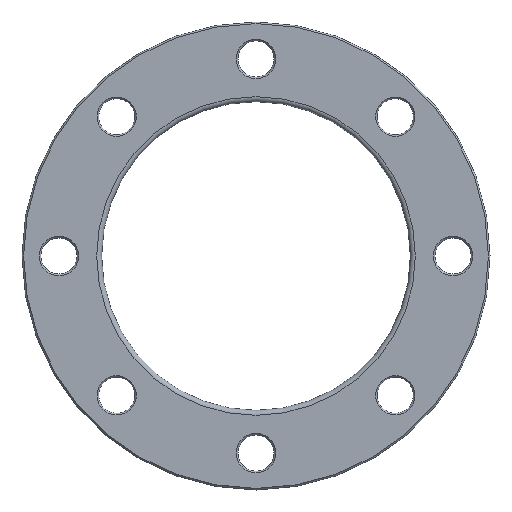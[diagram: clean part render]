
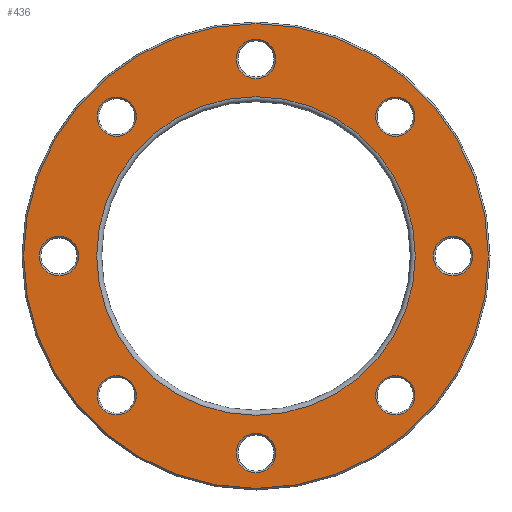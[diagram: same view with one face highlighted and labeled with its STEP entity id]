
A CAD part, front view. The second image highlights one B-rep face of the part: STEP entity #436.
In plain terms, the highlighted planar face has unit normal (0, -1, 0).
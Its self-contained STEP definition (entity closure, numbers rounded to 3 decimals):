
#23=PLANE('',#516);
#98=ORIENTED_EDGE('',*,*,#157,.T.);
#99=ORIENTED_EDGE('',*,*,#158,.T.);
#100=ORIENTED_EDGE('',*,*,#124,.T.);
#101=ORIENTED_EDGE('',*,*,#128,.T.);
#102=ORIENTED_EDGE('',*,*,#132,.T.);
#103=ORIENTED_EDGE('',*,*,#136,.T.);
#104=ORIENTED_EDGE('',*,*,#140,.T.);
#105=ORIENTED_EDGE('',*,*,#144,.T.);
#106=ORIENTED_EDGE('',*,*,#148,.T.);
#107=ORIENTED_EDGE('',*,*,#159,.T.);
#124=EDGE_CURVE('',#164,#164,#204,.T.);
#128=EDGE_CURVE('',#168,#168,#208,.T.);
#132=EDGE_CURVE('',#172,#172,#212,.T.);
#136=EDGE_CURVE('',#176,#176,#216,.T.);
#140=EDGE_CURVE('',#180,#180,#220,.T.);
#144=EDGE_CURVE('',#184,#184,#224,.T.);
#148=EDGE_CURVE('',#188,#188,#228,.T.);
#157=EDGE_CURVE('',#197,#197,#237,.F.);
#158=EDGE_CURVE('',#198,#198,#238,.T.);
#159=EDGE_CURVE('',#199,#199,#239,.T.);
#164=VERTEX_POINT('',#683);
#168=VERTEX_POINT('',#694);
#172=VERTEX_POINT('',#705);
#176=VERTEX_POINT('',#716);
#180=VERTEX_POINT('',#727);
#184=VERTEX_POINT('',#738);
#188=VERTEX_POINT('',#749);
#197=VERTEX_POINT('',#772);
#198=VERTEX_POINT('',#774);
#199=VERTEX_POINT('',#776);
#204=CIRCLE('',#461,12.);
#208=CIRCLE('',#468,12.);
#212=CIRCLE('',#475,12.);
#216=CIRCLE('',#482,12.);
#220=CIRCLE('',#489,12.);
#224=CIRCLE('',#496,12.);
#228=CIRCLE('',#503,12.);
#237=CIRCLE('',#517,141.5);
#238=CIRCLE('',#518,97.);
#239=CIRCLE('',#519,12.);
#298=EDGE_LOOP('',(#98));
#299=EDGE_LOOP('',(#99));
#300=EDGE_LOOP('',(#100));
#301=EDGE_LOOP('',(#101));
#302=EDGE_LOOP('',(#102));
#303=EDGE_LOOP('',(#103));
#304=EDGE_LOOP('',(#104));
#305=EDGE_LOOP('',(#105));
#306=EDGE_LOOP('',(#106));
#307=EDGE_LOOP('',(#107));
#378=FACE_BOUND('',#298,.T.);
#379=FACE_BOUND('',#299,.T.);
#380=FACE_BOUND('',#300,.T.);
#381=FACE_BOUND('',#301,.T.);
#382=FACE_BOUND('',#302,.T.);
#383=FACE_BOUND('',#303,.T.);
#384=FACE_BOUND('',#304,.T.);
#385=FACE_BOUND('',#305,.T.);
#386=FACE_BOUND('',#306,.T.);
#387=FACE_BOUND('',#307,.T.);
#436=ADVANCED_FACE('',(#378,#379,#380,#381,#382,#383,#384,#385,#386,#387),
#23,.F.);
#461=AXIS2_PLACEMENT_3D('',#682,#539,#540);
#468=AXIS2_PLACEMENT_3D('',#693,#553,#554);
#475=AXIS2_PLACEMENT_3D('',#704,#567,#568);
#482=AXIS2_PLACEMENT_3D('',#715,#581,#582);
#489=AXIS2_PLACEMENT_3D('',#726,#595,#596);
#496=AXIS2_PLACEMENT_3D('',#737,#609,#610);
#503=AXIS2_PLACEMENT_3D('',#748,#623,#624);
#516=AXIS2_PLACEMENT_3D('',#770,#649,#650);
#517=AXIS2_PLACEMENT_3D('',#771,#651,#652);
#518=AXIS2_PLACEMENT_3D('',#773,#653,#654);
#519=AXIS2_PLACEMENT_3D('',#775,#655,#656);
#539=DIRECTION('',(0.,1.,0.));
#540=DIRECTION('',(0.707,0.,0.707));
#553=DIRECTION('',(0.,1.,0.));
#554=DIRECTION('',(0.,0.,1.));
#567=DIRECTION('',(0.,1.,0.));
#568=DIRECTION('',(-0.707,0.,0.707));
#581=DIRECTION('',(0.,1.,0.));
#582=DIRECTION('',(-1.,0.,0.));
#595=DIRECTION('',(0.,1.,0.));
#596=DIRECTION('',(-0.707,0.,-0.707));
#609=DIRECTION('',(0.,1.,0.));
#610=DIRECTION('',(0.,0.,-1.));
#623=DIRECTION('',(0.,1.,0.));
#624=DIRECTION('',(0.707,0.,-0.707));
#649=DIRECTION('',(0.,1.,0.));
#650=DIRECTION('',(0.,0.,1.));
#651=DIRECTION('',(0.,1.,0.));
#652=DIRECTION('',(0.,0.,1.));
#653=DIRECTION('',(0.,1.,0.));
#654=DIRECTION('',(0.,0.,1.));
#655=DIRECTION('',(0.,1.,0.));
#656=DIRECTION('',(1.,0.,0.));
#682=CARTESIAN_POINT('',(-84.853,0.,84.853));
#683=CARTESIAN_POINT('',(-76.368,0.,93.338));
#693=CARTESIAN_POINT('',(-120.,0.,0.));
#694=CARTESIAN_POINT('',(-120.,0.,12.));
#704=CARTESIAN_POINT('',(-84.853,0.,-84.853));
#705=CARTESIAN_POINT('',(-93.338,0.,-76.368));
#715=CARTESIAN_POINT('',(0.,0.,-120.));
#716=CARTESIAN_POINT('',(-12.,0.,-120.));
#726=CARTESIAN_POINT('',(84.853,0.,-84.853));
#727=CARTESIAN_POINT('',(76.368,0.,-93.338));
#737=CARTESIAN_POINT('',(120.,0.,0.));
#738=CARTESIAN_POINT('',(120.,0.,-12.));
#748=CARTESIAN_POINT('',(84.853,0.,84.853));
#749=CARTESIAN_POINT('',(93.338,0.,76.368));
#770=CARTESIAN_POINT('',(0.,0.,0.));
#771=CARTESIAN_POINT('',(0.,0.,0.));
#772=CARTESIAN_POINT('',(0.,0.,141.5));
#773=CARTESIAN_POINT('',(0.,0.,0.));
#774=CARTESIAN_POINT('',(0.,0.,97.));
#775=CARTESIAN_POINT('',(0.,0.,120.));
#776=CARTESIAN_POINT('',(12.,0.,120.));
